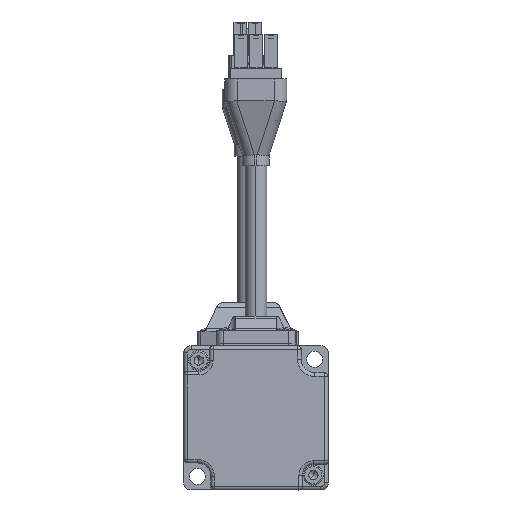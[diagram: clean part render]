
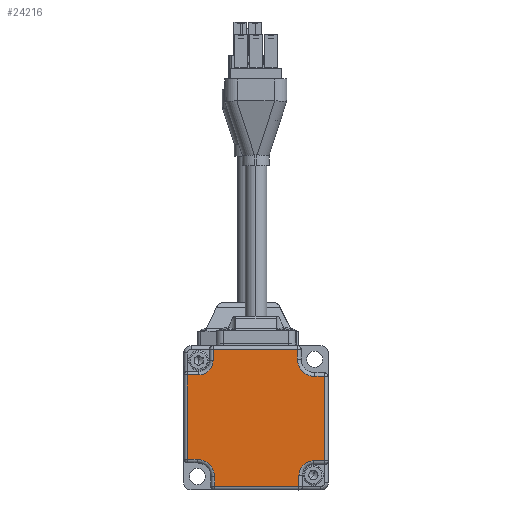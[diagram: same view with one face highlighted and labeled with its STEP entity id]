
A CAD part, front view. The second image highlights one B-rep face of the part: STEP entity #24216.
In plain terms, the highlighted planar face has unit normal (0, 1, 0).
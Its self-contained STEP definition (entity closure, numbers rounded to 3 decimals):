
#22645=DIRECTION('',(0.,0.,-1.));
#22646=VECTOR('',#22645,23.41);
#22647=CARTESIAN_POINT('',(19.,0.,11.5));
#22648=LINE('',#22647,#22646);
#22653=CARTESIAN_POINT('',(15.91,0.,
-15.91));
#22654=DIRECTION('',(0.,-1.,0.));
#22655=DIRECTION('',(0.,0.,1.));
#22656=AXIS2_PLACEMENT_3D('',#22653,#22654,#22655);
#22658=CARTESIAN_POINT('',(16.3,0.,
16.3));
#22659=DIRECTION('',(0.,-1.,0.));
#22660=DIRECTION('',(-1.,0.,0.));
#22661=AXIS2_PLACEMENT_3D('',#22658,#22659,#22660);
#22663=CARTESIAN_POINT('',(-15.91,0.,
15.91));
#22664=DIRECTION('',(0.,-1.,0.));
#22665=DIRECTION('',(0.,0.,-1.));
#22666=AXIS2_PLACEMENT_3D('',#22663,#22664,#22665);
#22668=CARTESIAN_POINT('',(-16.3,0.,
-16.3));
#22669=DIRECTION('',(0.,-1.,0.));
#22670=DIRECTION('',(1.,0.,0.));
#22671=AXIS2_PLACEMENT_3D('',#22668,#22669,#22670);
#22677=DIRECTION('',(0.,0.,1.));
#22678=VECTOR('',#22677,2.7);
#22679=CARTESIAN_POINT('',(-11.5,0.,-19.));
#22680=LINE('',#22679,#22678);
#22700=DIRECTION('',(-1.,0.,0.));
#22701=VECTOR('',#22700,2.7);
#22702=CARTESIAN_POINT('',(-16.3,0.,
-11.5));
#22703=LINE('',#22702,#22701);
#22856=DIRECTION('',(-1.,0.,0.));
#22857=VECTOR('',#22856,3.09);
#22858=CARTESIAN_POINT('',(19.,0.,
-11.91));
#22859=LINE('',#22858,#22857);
#22894=DIRECTION('',(0.,0.,-1.));
#22895=VECTOR('',#22894,3.09);
#22896=CARTESIAN_POINT('',(11.91,0.,-15.91));
#22897=LINE('',#22896,#22895);
#22921=DIRECTION('',(-1.,0.,0.));
#22922=VECTOR('',#22921,23.41);
#22923=CARTESIAN_POINT('',(11.91,0.,
-19.));
#22924=LINE('',#22923,#22922);
#22984=DIRECTION('',(0.,0.,1.));
#22985=VECTOR('',#22984,23.41);
#22986=CARTESIAN_POINT('',(-19.,0.,-11.5));
#22987=LINE('',#22986,#22985);
#23077=DIRECTION('',(1.,0.,0.));
#23078=VECTOR('',#23077,3.09);
#23079=CARTESIAN_POINT('',(-19.,0.,
11.91));
#23080=LINE('',#23079,#23078);
#23085=DIRECTION('',(0.,0.,1.));
#23086=VECTOR('',#23085,3.09);
#23087=CARTESIAN_POINT('',(-11.91,0.,15.91));
#23088=LINE('',#23087,#23086);
#23112=DIRECTION('',(1.,0.,0.));
#23113=VECTOR('',#23112,23.41);
#23114=CARTESIAN_POINT('',(-11.91,0.,
19.));
#23115=LINE('',#23114,#23113);
#23247=DIRECTION('',(0.,0.,-1.));
#23248=VECTOR('',#23247,2.7);
#23249=CARTESIAN_POINT('',(11.5,0.,19.));
#23250=LINE('',#23249,#23248);
#23274=DIRECTION('',(1.,0.,0.));
#23275=VECTOR('',#23274,2.7);
#23276=CARTESIAN_POINT('',(16.3,0.,
11.5));
#23277=LINE('',#23276,#23275);
#23904=CARTESIAN_POINT('',(-11.5,0.,-19.));
#23905=CARTESIAN_POINT('',(-11.5,0.,
-16.3));
#23906=VERTEX_POINT('',#23904);
#23907=VERTEX_POINT('',#23905);
#23908=CARTESIAN_POINT('',(11.91,0.,
-19.));
#23909=VERTEX_POINT('',#23908);
#23910=CARTESIAN_POINT('',(11.91,0.,-15.91));
#23911=VERTEX_POINT('',#23910);
#23912=CARTESIAN_POINT('',(15.91,0.,
-11.91));
#23913=VERTEX_POINT('',#23912);
#23914=CARTESIAN_POINT('',(19.,0.,
-11.91));
#23915=VERTEX_POINT('',#23914);
#23916=CARTESIAN_POINT('',(19.,0.,11.5));
#23917=VERTEX_POINT('',#23916);
#23918=CARTESIAN_POINT('',(16.3,0.,
11.5));
#23919=VERTEX_POINT('',#23918);
#23920=CARTESIAN_POINT('',(11.5,0.,
16.3));
#23921=VERTEX_POINT('',#23920);
#23922=CARTESIAN_POINT('',(11.5,0.,19.));
#23923=VERTEX_POINT('',#23922);
#23924=CARTESIAN_POINT('',(-11.91,0.,
19.));
#23925=VERTEX_POINT('',#23924);
#23926=CARTESIAN_POINT('',(-11.91,0.,15.91));
#23927=VERTEX_POINT('',#23926);
#23928=CARTESIAN_POINT('',(-15.91,0.,
11.91));
#23929=VERTEX_POINT('',#23928);
#23930=CARTESIAN_POINT('',(-19.,0.,
11.91));
#23931=VERTEX_POINT('',#23930);
#23932=CARTESIAN_POINT('',(-19.,0.,-11.5));
#23933=VERTEX_POINT('',#23932);
#23934=CARTESIAN_POINT('',(-16.3,0.,
-11.5));
#23935=VERTEX_POINT('',#23934);
#24178=CARTESIAN_POINT('',(0.,0.,0.));
#24179=DIRECTION('',(0.,1.,0.));
#24180=DIRECTION('',(0.,0.,1.));
#24181=AXIS2_PLACEMENT_3D('',#24178,#24179,#24180);
#24182=PLANE('',#24181);
#24184=ORIENTED_EDGE('',*,*,#24183,.F.);
#24186=ORIENTED_EDGE('',*,*,#24185,.F.);
#24188=ORIENTED_EDGE('',*,*,#24187,.F.);
#24190=ORIENTED_EDGE('',*,*,#24189,.F.);
#24192=ORIENTED_EDGE('',*,*,#24191,.F.);
#24193=ORIENTED_EDGE('',*,*,#24168,.F.);
#24195=ORIENTED_EDGE('',*,*,#24194,.F.);
#24197=ORIENTED_EDGE('',*,*,#24196,.F.);
#24199=ORIENTED_EDGE('',*,*,#24198,.F.);
#24201=ORIENTED_EDGE('',*,*,#24200,.F.);
#24203=ORIENTED_EDGE('',*,*,#24202,.F.);
#24205=ORIENTED_EDGE('',*,*,#24204,.F.);
#24207=ORIENTED_EDGE('',*,*,#24206,.F.);
#24209=ORIENTED_EDGE('',*,*,#24208,.F.);
#24211=ORIENTED_EDGE('',*,*,#24210,.F.);
#24213=ORIENTED_EDGE('',*,*,#24212,.F.);
#24214=EDGE_LOOP('',(#24184,#24186,#24188,#24190,#24192,#24193,#24195,#24197,
#24199,#24201,#24203,#24205,#24207,#24209,#24211,#24213));
#24215=FACE_OUTER_BOUND('',#24214,.F.);
#24216=ADVANCED_FACE('',(#24215),#24182,.T.);
#22657=CIRCLE('',#22656,4.);
#22662=CIRCLE('',#22661,4.8);
#22667=CIRCLE('',#22666,4.);
#22672=CIRCLE('',#22671,4.8);
#24168=EDGE_CURVE('',#23917,#23915,#22648,.T.);
#24183=EDGE_CURVE('',#23906,#23907,#22680,.T.);
#24185=EDGE_CURVE('',#23909,#23906,#22924,.T.);
#24187=EDGE_CURVE('',#23911,#23909,#22897,.T.);
#24189=EDGE_CURVE('',#23913,#23911,#22657,.T.);
#24191=EDGE_CURVE('',#23915,#23913,#22859,.T.);
#24194=EDGE_CURVE('',#23919,#23917,#23277,.T.);
#24196=EDGE_CURVE('',#23921,#23919,#22662,.T.);
#24198=EDGE_CURVE('',#23923,#23921,#23250,.T.);
#24200=EDGE_CURVE('',#23925,#23923,#23115,.T.);
#24202=EDGE_CURVE('',#23927,#23925,#23088,.T.);
#24204=EDGE_CURVE('',#23929,#23927,#22667,.T.);
#24206=EDGE_CURVE('',#23931,#23929,#23080,.T.);
#24208=EDGE_CURVE('',#23933,#23931,#22987,.T.);
#24210=EDGE_CURVE('',#23935,#23933,#22703,.T.);
#24212=EDGE_CURVE('',#23907,#23935,#22672,.T.);
